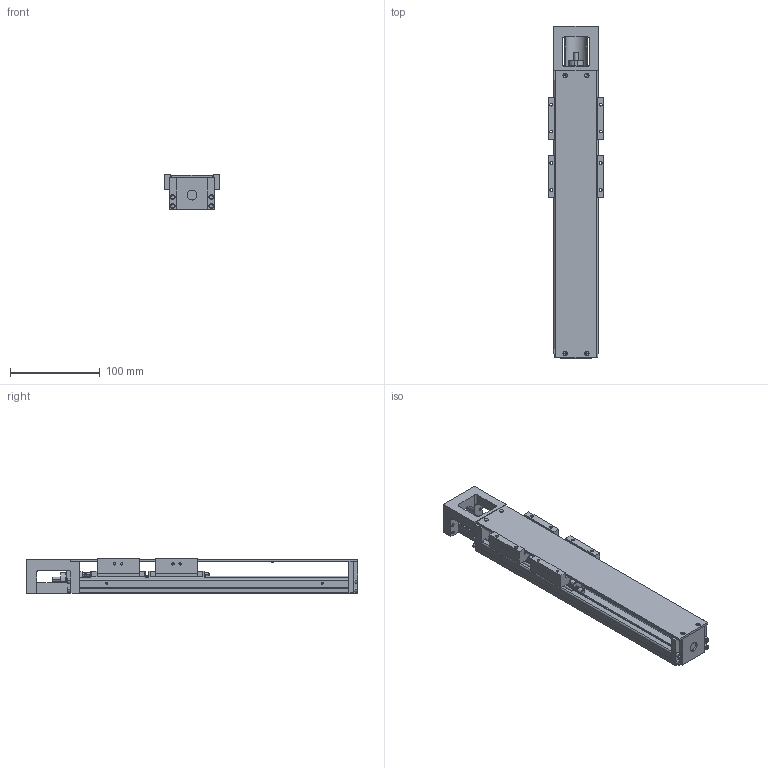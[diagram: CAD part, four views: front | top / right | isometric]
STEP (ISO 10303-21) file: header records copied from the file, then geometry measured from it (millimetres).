
FILE_DESCRIPTION(('no description'),'unknown implementation level');
FILE_NAME('KK5002P300A2F0C00_FILE_23.stp',' ',('HIWIN GmbH'),('CADClick - KiM GmbH - www.kimweb.de'),'unknown preprocess','ACIS','unknown authorization');
FILE_SCHEMA(('automotive_design'));
Length unit declared in the file: millimetre
Products named in the file (3): KK5002P300A2F0C00_FILE_1; KK50_FILE; KK5002P300A2F0C00_FILE
Bounding box: 62 x 370 x 40 mm (x, y, z)
Volume: 390785.1 mm3; surface area: 150234.1 mm2
Topology: 3 solids, 19 shells, 1213 faces, 3098 edges, 1963 vertices
Faces by surface type: plane 724, cylinder 343, cone 94, torus 52
Entity records: 72117 total; most frequent: CARTESIAN_POINT 7261, DIRECTION 6386, STYLED_ITEM 6231, PRESENTATION_STYLE_ASSIGNMENT 6231, COLOUR_RGB 6231, ORIENTED_EDGE 6104, EDGE_CURVE 3052, CURVE_STYLE 3052
